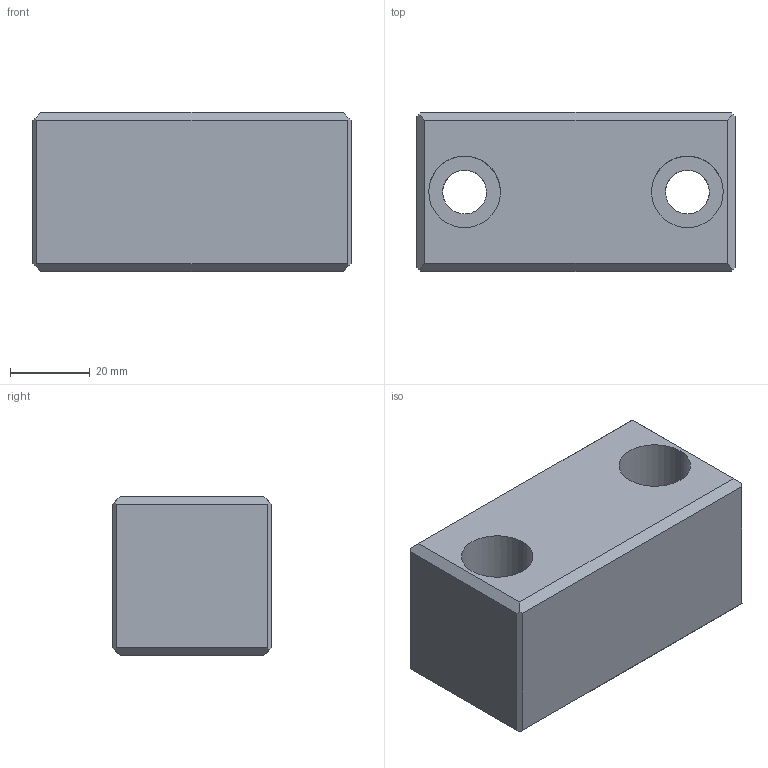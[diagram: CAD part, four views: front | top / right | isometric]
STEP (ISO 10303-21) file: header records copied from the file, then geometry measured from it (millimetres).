
FILE_DESCRIPTION(('CATIA V5 STEP Exchange'),'2;1');
FILE_NAME('C:\Users\Utente\Desktop\IO LAVORO\3D X SITO CF\X 3D SITO CF 27-09-2020\759\759+80+40+40+8.stp','2020-10-27T20:11:50+00:00',('none'),('none'),'CATIA Version 5 Release 20 GA (IN-10)','CATIA V5 STEP AP203','none');
FILE_SCHEMA(('CONFIG_CONTROL_DESIGN'));
Length unit declared in the file: millimetre
Products named in the file (1): 759+80+40+40+8
Bounding box: 80 x 40 x 40 mm (x, y, z)
Volume: 109182.1 mm3; surface area: 19129.1 mm2
Topology: 1 solids, 1 shells, 28 faces, 72 edges, 48 vertices
Faces by surface type: plane 20, cylinder 8
Entity records: 991 total; most frequent: CARTESIAN_POINT 264, ORIENTED_EDGE 144, DIRECTION 123, EDGE_CURVE 72, VECTOR 56, LINE 56, VERTEX_POINT 48, AXIS2_PLACEMENT_3D 40
